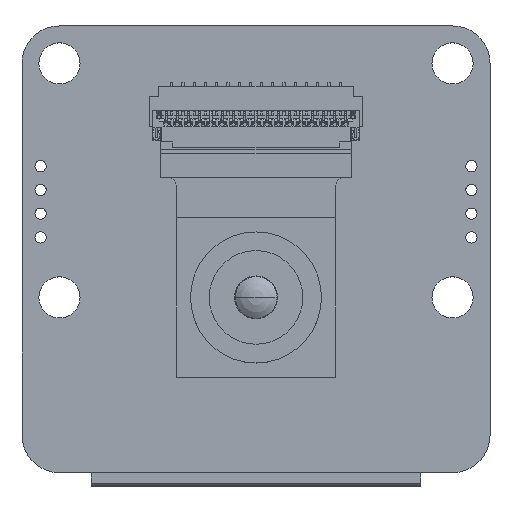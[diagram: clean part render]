
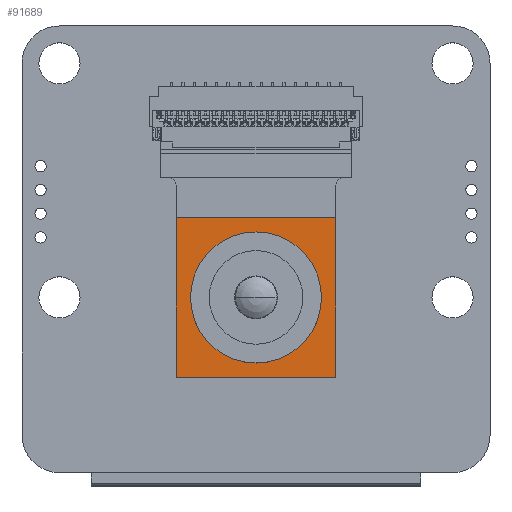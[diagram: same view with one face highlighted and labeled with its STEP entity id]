
A CAD part, top view. The second image highlights one B-rep face of the part: STEP entity #91689.
In plain terms, the highlighted planar face has unit normal (0, 0, 1) as drawn and (0, 1, 0) by its records, which use the part's own axes.
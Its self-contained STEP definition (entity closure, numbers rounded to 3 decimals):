
#2352 = DIRECTION ( 'NONE',  ( 0., 0., -1. ) ) ;
#5582 = EDGE_CURVE ( 'NONE', #132532, #135480, #13887, .T. ) ;
#10540 = PLANE ( 'NONE',  #150005 ) ;
#12110 = AXIS2_PLACEMENT_3D ( 'NONE', #115673, #19235, #158000 ) ;
#13342 = DIRECTION ( 'NONE',  ( -1., 0., 0. ) ) ;
#13887 = LINE ( 'NONE', #58024, #166510 ) ;
#14275 = ORIENTED_EDGE ( 'NONE', *, *, #20893, .T. ) ;
#15833 = CARTESIAN_POINT ( 'NONE',  ( 0., 3.55, 3.5 ) ) ;
#17202 = CARTESIAN_POINT ( 'NONE',  ( -4.25, 3.55, -4.253 ) ) ;
#19235 = DIRECTION ( 'NONE',  ( 0., 1., 0. ) ) ;
#20893 = EDGE_CURVE ( 'NONE', #114676, #102418, #122541, .T. ) ;
#34908 = ORIENTED_EDGE ( 'NONE', *, *, #152341, .F. ) ;
#34959 = VERTEX_POINT ( 'NONE', #149404 ) ;
#45511 = CARTESIAN_POINT ( 'NONE',  ( 4.25, 3.55, 4.253 ) ) ;
#50320 = ORIENTED_EDGE ( 'NONE', *, *, #5582, .T. ) ;
#50616 = LINE ( 'NONE', #174077, #143926 ) ;
#58024 = CARTESIAN_POINT ( 'NONE',  ( -4.25, 3.55, 4.253 ) ) ;
#64450 = VECTOR ( 'NONE', #177568, 1000. ) ;
#64653 = FACE_OUTER_BOUND ( 'NONE', #70630, .T. ) ;
#69552 = VERTEX_POINT ( 'NONE', #15833 ) ;
#70630 = EDGE_LOOP ( 'NONE', ( #14275, #135713, #50320, #122532 ) ) ;
#70917 = LINE ( 'NONE', #125841, #106044 ) ;
#70996 = DIRECTION ( 'NONE',  ( 0., 1., 0. ) ) ;
#73036 = EDGE_LOOP ( 'NONE', ( #127269, #34908 ) ) ;
#77175 = CIRCLE ( 'NONE', #85910, 3.5 ) ;
#81708 = FACE_BOUND ( 'NONE', #73036, .T. ) ;
#85910 = AXIS2_PLACEMENT_3D ( 'NONE', #86233, #70996, #114150 ) ;
#86233 = CARTESIAN_POINT ( 'NONE',  ( 0., 3.55, 0. ) ) ;
#91689 = ADVANCED_FACE ( 'NONE', ( #81708, #64653 ), #10540, .F. ) ;
#94068 = EDGE_CURVE ( 'NONE', #135480, #114676, #70917, .T. ) ;
#102418 = VERTEX_POINT ( 'NONE', #153221 ) ;
#106044 = VECTOR ( 'NONE', #112313, 1000. ) ;
#106956 = DIRECTION ( 'NONE',  ( 0., -1., 0. ) ) ;
#112066 = DIRECTION ( 'NONE',  ( 0., 0., 1. ) ) ;
#112313 = DIRECTION ( 'NONE',  ( 1., 0., 0. ) ) ;
#114150 = DIRECTION ( 'NONE',  ( 0., 0., 1. ) ) ;
#114676 = VERTEX_POINT ( 'NONE', #45511 ) ;
#115673 = CARTESIAN_POINT ( 'NONE',  ( 0., 3.55, 0. ) ) ;
#122532 = ORIENTED_EDGE ( 'NONE', *, *, #94068, .T. ) ;
#122541 = LINE ( 'NONE', #176687, #64450 ) ;
#124269 = CIRCLE ( 'NONE', #12110, 3.5 ) ;
#125841 = CARTESIAN_POINT ( 'NONE',  ( -4.25, 3.55, 4.253 ) ) ;
#127269 = ORIENTED_EDGE ( 'NONE', *, *, #170956, .F. ) ;
#132532 = VERTEX_POINT ( 'NONE', #17202 ) ;
#135480 = VERTEX_POINT ( 'NONE', #162038 ) ;
#135713 = ORIENTED_EDGE ( 'NONE', *, *, #167060, .T. ) ;
#143926 = VECTOR ( 'NONE', #13342, 1000. ) ;
#149404 = CARTESIAN_POINT ( 'NONE',  ( 0., 3.55, -3.5 ) ) ;
#150005 = AXIS2_PLACEMENT_3D ( 'NONE', #175494, #106956, #2352 ) ;
#152341 = EDGE_CURVE ( 'NONE', #69552, #34959, #124269, .T. ) ;
#153221 = CARTESIAN_POINT ( 'NONE',  ( 4.25, 3.55, -4.253 ) ) ;
#158000 = DIRECTION ( 'NONE',  ( 0., 0., 1. ) ) ;
#162038 = CARTESIAN_POINT ( 'NONE',  ( -4.25, 3.55, 4.253 ) ) ;
#166510 = VECTOR ( 'NONE', #112066, 1000. ) ;
#167060 = EDGE_CURVE ( 'NONE', #102418, #132532, #50616, .T. ) ;
#170956 = EDGE_CURVE ( 'NONE', #34959, #69552, #77175, .T. ) ;
#174077 = CARTESIAN_POINT ( 'NONE',  ( -4.25, 3.55, -4.253 ) ) ;
#175494 = CARTESIAN_POINT ( 'NONE',  ( 0., 3.55, 0. ) ) ;
#176687 = CARTESIAN_POINT ( 'NONE',  ( 4.25, 3.55, 4.253 ) ) ;
#177568 = DIRECTION ( 'NONE',  ( 0., 0., -1. ) ) ;
